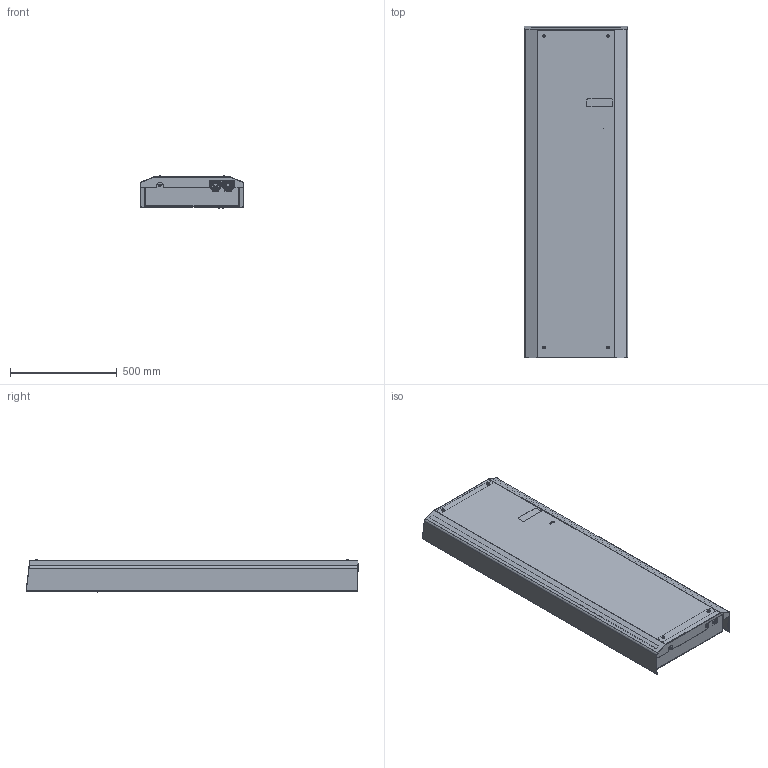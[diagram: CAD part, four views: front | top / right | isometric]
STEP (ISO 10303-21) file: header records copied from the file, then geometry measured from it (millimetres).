
FILE_DESCRIPTION (( 'STEP AP214' ), '1' );
FILE_NAME ('PWS 6302.STEP', '2014-05-15T13:49:48', ( '' ), ( '' ), 'SwSTEP 2.0', 'SolidWorks 2012', '' );
FILE_SCHEMA (( 'AUTOMOTIVE_DESIGN' ));
Length unit declared in the file: millimetre
Products named in the file (1): PWS 6302
Bounding box: 485.11 x 1556.67 x 151.76 mm (x, y, z)
Volume: 4815535 mm3; surface area: 5497269.2 mm2
Topology: 123 solids, 124 shells, 5548 faces, 14095 edges, 8893 vertices
Faces by surface type: plane 3079, cylinder 1010, cone 499, bspline 451, torus 311, sphere 198
Entity records: 255765 total; most frequent: CARTESIAN_POINT 62739, ORIENTED_EDGE 27816, DIRECTION 25743, EDGE_CURVE 13908, AXIS2_PLACEMENT_3D 8843, VERTEX_POINT 8806, LINE 8057, VECTOR 8057
